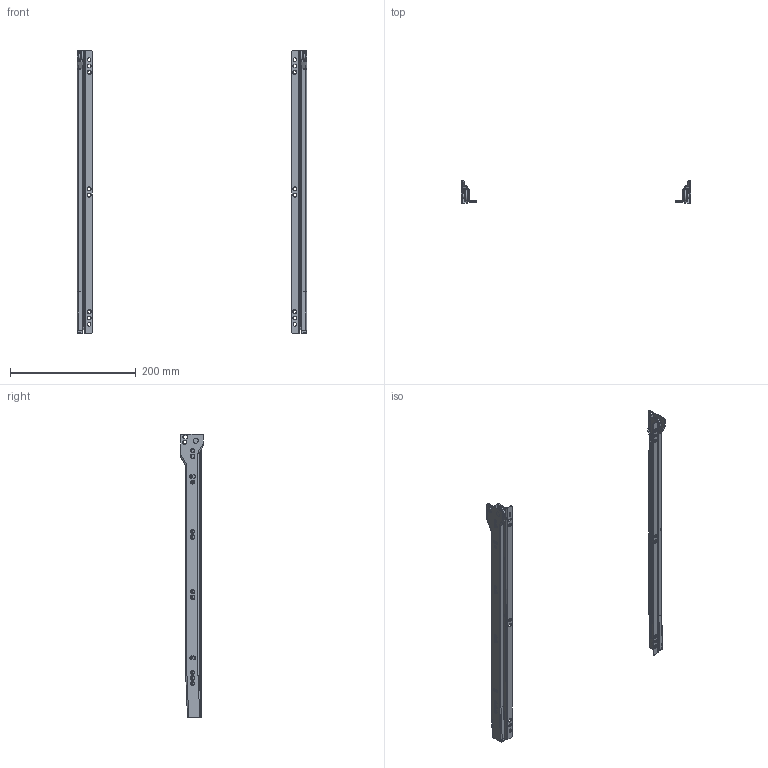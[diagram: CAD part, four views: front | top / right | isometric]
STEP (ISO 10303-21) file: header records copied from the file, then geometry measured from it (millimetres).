
FILE_DESCRIPTION(/* description */ (''),/* implementation_level */ '2;1');
FILE_NAME(/* name */ 'D:\$Workingspace\Designs\Katalog\Cadsoft\GTV Prowadnice\Prowadnice GTV_bryły 3D\PR-SP-450-10.stp',/* time_stamp */ '2016-11-22T15:25:47+01:00',/* author */ ('tomaszw'),/* organization */ (''),/* preprocessor_version */ 'ST-DEVELOPER v16.1',/* originating_system */ 'Autodesk Inventor 2016',/* authorisation */ '');
FILE_SCHEMA (('AUTOMOTIVE_DESIGN { 1 0 10303 214 3 1 1 }'));
Length unit declared in the file: millimetre
Products named in the file (5): PR-SP-450-10_CL; PR-SP-450-10_CR; PR-SP-450-10_DL; PR-SP-450-10_DR; PR-SP
Assembly tree (4 placements, depth 2):
  PR-SP
    PR-SP-450-10_CL
    PR-SP-450-10_CR
    PR-SP-450-10_DL
    PR-SP-450-10_DR
Bounding box: 364 x 36 x 450.02 mm (x, y, z)
Volume: 84406.3 mm3; surface area: 138740.1 mm2
Topology: 4 solids, 4 shells, 424 faces, 1060 edges, 656 vertices
Faces by surface type: cylinder 186, plane 158, cone 44, torus 28, sphere 8
Full cylindrical faces by diameter (mm): 5 x2, 5.4 x24, 5.5 x2, 6.4 x8, 7 x4, 8 x4, 18.5 x4
Entity records: 12953 total; most frequent: CARTESIAN_POINT 2239, DIRECTION 2228, ORIENTED_EDGE 1920, EDGE_CURVE 960, AXIS2_PLACEMENT_3D 849, VERTEX_POINT 648, EDGE_LOOP 628, LINE 530
